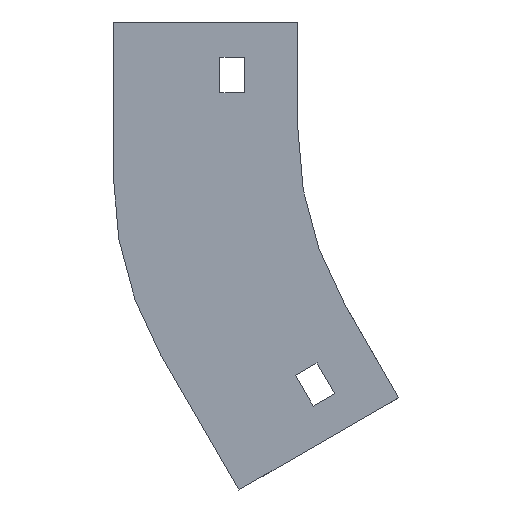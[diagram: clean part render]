
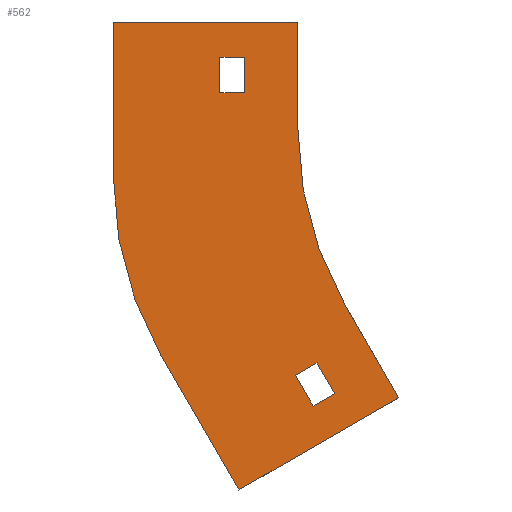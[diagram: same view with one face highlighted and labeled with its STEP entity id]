
A CAD part, left-side view. The second image highlights one B-rep face of the part: STEP entity #562.
In plain terms, the highlighted planar face has unit normal (-1, 0, 0).
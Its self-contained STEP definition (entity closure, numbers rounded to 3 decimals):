
#4 = VECTOR ( 'NONE', #836, 1000. ) ;
#5 = VECTOR ( 'NONE', #879, 1000. ) ;
#12 = EDGE_CURVE ( 'NONE', #265, #449, #974, .T. ) ;
#26 = CARTESIAN_POINT ( 'NONE',  ( -252., 52., 0. ) ) ;
#28 = CARTESIAN_POINT ( 'NONE',  ( -252., -4.345, -108.321 ) ) ;
#38 = FACE_OUTER_BOUND ( 'NONE', #1201, .T. ) ;
#44 = EDGE_CURVE ( 'NONE', #52, #822, #1235, .T. ) ;
#52 = VERTEX_POINT ( 'NONE', #594 ) ;
#53 = DIRECTION ( 'NONE',  ( 0., 0., -1. ) ) ;
#91 = LINE ( 'NONE', #1064, #414 ) ;
#108 = VECTOR ( 'NONE', #1223, 1000. ) ;
#114 = CARTESIAN_POINT ( 'NONE',  ( -252., -10.407, -104.821 ) ) ;
#123 = VERTEX_POINT ( 'NONE', #352 ) ;
#128 = VERTEX_POINT ( 'NONE', #915 ) ;
#138 = EDGE_CURVE ( 'NONE', #123, #265, #399, .T. ) ;
#149 = DIRECTION ( 'NONE',  ( 1., 0., 0. ) ) ;
#154 = CARTESIAN_POINT ( 'NONE',  ( -252., 15., -10. ) ) ;
#160 = VERTEX_POINT ( 'NONE', #1157 ) ;
#171 = FACE_BOUND ( 'NONE', #1334, .T. ) ;
#172 = CARTESIAN_POINT ( 'NONE',  ( -252., 22., -10. ) ) ;
#186 = VERTEX_POINT ( 'NONE', #920 ) ;
#187 = EDGE_CURVE ( 'NONE', #449, #354, #1225, .T. ) ;
#190 = LINE ( 'NONE', #207, #349 ) ;
#204 = ORIENTED_EDGE ( 'NONE', *, *, #44, .T. ) ;
#207 = CARTESIAN_POINT ( 'NONE',  ( -252., 22., -10. ) ) ;
#213 = DIRECTION ( 'NONE',  ( 0., -0.5, -0.866 ) ) ;
#215 = LINE ( 'NONE', #975, #1149 ) ;
#222 = ORIENTED_EDGE ( 'NONE', *, *, #652, .F. ) ;
#225 = EDGE_CURVE ( 'NONE', #128, #186, #418, .T. ) ;
#233 = CARTESIAN_POINT ( 'NONE',  ( -252., 0., 0. ) ) ;
#248 = DIRECTION ( 'NONE',  ( -1., 0., 0. ) ) ;
#256 = LINE ( 'NONE', #364, #108 ) ;
#257 = CARTESIAN_POINT ( 'NONE',  ( -252., -4.345, -108.321 ) ) ;
#261 = LINE ( 'NONE', #26, #1392 ) ;
#265 = VERTEX_POINT ( 'NONE', #967 ) ;
#292 = EDGE_CURVE ( 'NONE', #932, #52, #638, .T. ) ;
#311 = DIRECTION ( 'NONE',  ( 0., 1., 0. ) ) ;
#327 = ORIENTED_EDGE ( 'NONE', *, *, #1088, .F. ) ;
#338 = CARTESIAN_POINT ( 'NONE',  ( -252., -13.397, -80. ) ) ;
#339 = VECTOR ( 'NONE', #1227, 1000. ) ;
#349 = VECTOR ( 'NONE', #950, 1000. ) ;
#352 = CARTESIAN_POINT ( 'NONE',  ( -252., -5.407, -96.16 ) ) ;
#354 = VERTEX_POINT ( 'NONE', #114 ) ;
#364 = CARTESIAN_POINT ( 'NONE',  ( -252., 52., -43.933 ) ) ;
#383 = EDGE_CURVE ( 'NONE', #588, #160, #461, .T. ) ;
#399 = LINE ( 'NONE', #825, #415 ) ;
#402 = CARTESIAN_POINT ( 'NONE',  ( -252., 22., -10. ) ) ;
#414 = VECTOR ( 'NONE', #311, 1000. ) ;
#415 = VECTOR ( 'NONE', #1151, 1000. ) ;
#418 = LINE ( 'NONE', #509, #979 ) ;
#449 = VERTEX_POINT ( 'NONE', #28 ) ;
#461 = CIRCLE ( 'NONE', #673, 100. ) ;
#462 = VERTEX_POINT ( 'NONE', #864 ) ;
#464 = CARTESIAN_POINT ( 'NONE',  ( -252., -100., -30. ) ) ;
#482 = EDGE_CURVE ( 'NONE', #462, #128, #1014, .T. ) ;
#493 = PLANE ( 'NONE',  #1338 ) ;
#509 = CARTESIAN_POINT ( 'NONE',  ( -252., 16.636, -131.981 ) ) ;
#510 = LINE ( 'NONE', #338, #959 ) ;
#520 = CARTESIAN_POINT ( 'NONE',  ( -252., 15., -20. ) ) ;
#525 = DIRECTION ( 'NONE',  ( 0., 0.5, 0.866 ) ) ;
#547 = EDGE_CURVE ( 'NONE', #186, #621, #1208, .T. ) ;
#560 = AXIS2_PLACEMENT_3D ( 'NONE', #597, #149, #53 ) ;
#562 = ADVANCED_FACE ( 'NONE', ( #171, #38, #604 ), #493, .T. ) ;
#564 = ORIENTED_EDGE ( 'NONE', *, *, #482, .F. ) ;
#579 = EDGE_CURVE ( 'NONE', #621, #1082, #256, .T. ) ;
#588 = VERTEX_POINT ( 'NONE', #800 ) ;
#594 = CARTESIAN_POINT ( 'NONE',  ( -252., 15., -10. ) ) ;
#597 = CARTESIAN_POINT ( 'NONE',  ( -252., -48., -43.933 ) ) ;
#604 = FACE_BOUND ( 'NONE', #933, .T. ) ;
#610 = VERTEX_POINT ( 'NONE', #856 ) ;
#612 = DIRECTION ( 'NONE',  ( -1., 0., 0. ) ) ;
#621 = VERTEX_POINT ( 'NONE', #839 ) ;
#638 = LINE ( 'NONE', #402, #4 ) ;
#652 = EDGE_CURVE ( 'NONE', #354, #123, #215, .T. ) ;
#664 = CARTESIAN_POINT ( 'NONE',  ( -252., -100., -30. ) ) ;
#673 = AXIS2_PLACEMENT_3D ( 'NONE', #664, #248, #1099 ) ;
#679 = CARTESIAN_POINT ( 'NONE',  ( -252., -4.345, -108.321 ) ) ;
#681 = ORIENTED_EDGE ( 'NONE', *, *, #187, .F. ) ;
#685 = DIRECTION ( 'NONE',  ( 0., -0.866, 0.5 ) ) ;
#757 = LINE ( 'NONE', #233, #1337 ) ;
#761 = ORIENTED_EDGE ( 'NONE', *, *, #1043, .T. ) ;
#773 = EDGE_CURVE ( 'NONE', #1082, #1352, #261, .T. ) ;
#780 = DIRECTION ( 'NONE',  ( 0., -1., 0. ) ) ;
#791 = DIRECTION ( 'NONE',  ( 0., 0., 1. ) ) ;
#797 = ORIENTED_EDGE ( 'NONE', *, *, #138, .F. ) ;
#800 = CARTESIAN_POINT ( 'NONE',  ( -252., 0., -30. ) ) ;
#812 = ORIENTED_EDGE ( 'NONE', *, *, #579, .F. ) ;
#822 = VERTEX_POINT ( 'NONE', #520 ) ;
#823 = CARTESIAN_POINT ( 'NONE',  ( -252., -28.397, -105.981 ) ) ;
#825 = CARTESIAN_POINT ( 'NONE',  ( -252., 0.655, -99.66 ) ) ;
#826 = ORIENTED_EDGE ( 'NONE', *, *, #292, .T. ) ;
#831 = ORIENTED_EDGE ( 'NONE', *, *, #547, .F. ) ;
#836 = DIRECTION ( 'NONE',  ( 0., -1., 0. ) ) ;
#839 = CARTESIAN_POINT ( 'NONE',  ( -252., 52., -43.933 ) ) ;
#853 = DIRECTION ( 'NONE',  ( 0., 0.5, 0.866 ) ) ;
#856 = CARTESIAN_POINT ( 'NONE',  ( -252., 22., -20. ) ) ;
#864 = CARTESIAN_POINT ( 'NONE',  ( -252., -28.397, -105.981 ) ) ;
#879 = DIRECTION ( 'NONE',  ( 0., -0.5, -0.866 ) ) ;
#908 = ORIENTED_EDGE ( 'NONE', *, *, #12, .F. ) ;
#915 = CARTESIAN_POINT ( 'NONE',  ( -252., 16.636, -131.981 ) ) ;
#920 = CARTESIAN_POINT ( 'NONE',  ( -252., 38.603, -93.933 ) ) ;
#932 = VERTEX_POINT ( 'NONE', #172 ) ;
#933 = EDGE_LOOP ( 'NONE', ( #222, #681, #908, #797 ) ) ;
#934 = VECTOR ( 'NONE', #685, 1000. ) ;
#936 = CARTESIAN_POINT ( 'NONE',  ( -252., 52., 0. ) ) ;
#950 = DIRECTION ( 'NONE',  ( 0., 0., 1. ) ) ;
#959 = VECTOR ( 'NONE', #213, 1000. ) ;
#964 = ORIENTED_EDGE ( 'NONE', *, *, #1178, .F. ) ;
#967 = CARTESIAN_POINT ( 'NONE',  ( -252., 0.655, -99.66 ) ) ;
#974 = LINE ( 'NONE', #679, #5 ) ;
#975 = CARTESIAN_POINT ( 'NONE',  ( -252., -10.407, -104.821 ) ) ;
#979 = VECTOR ( 'NONE', #853, 1000. ) ;
#987 = DIRECTION ( 'NONE',  ( 0., 0., -1. ) ) ;
#1007 = EDGE_CURVE ( 'NONE', #610, #932, #190, .T. ) ;
#1014 = LINE ( 'NONE', #823, #1250 ) ;
#1022 = DIRECTION ( 'NONE',  ( 0., 0.866, -0.5 ) ) ;
#1043 = EDGE_CURVE ( 'NONE', #822, #610, #91, .T. ) ;
#1046 = ORIENTED_EDGE ( 'NONE', *, *, #225, .F. ) ;
#1052 = ORIENTED_EDGE ( 'NONE', *, *, #383, .F. ) ;
#1064 = CARTESIAN_POINT ( 'NONE',  ( -252., 22., -20. ) ) ;
#1082 = VERTEX_POINT ( 'NONE', #936 ) ;
#1088 = EDGE_CURVE ( 'NONE', #160, #462, #510, .T. ) ;
#1099 = DIRECTION ( 'NONE',  ( 0., 0., 1. ) ) ;
#1138 = ORIENTED_EDGE ( 'NONE', *, *, #773, .F. ) ;
#1149 = VECTOR ( 'NONE', #525, 1000. ) ;
#1151 = DIRECTION ( 'NONE',  ( 0., 0.866, -0.5 ) ) ;
#1157 = CARTESIAN_POINT ( 'NONE',  ( -252., -13.397, -80. ) ) ;
#1178 = EDGE_CURVE ( 'NONE', #1352, #588, #757, .T. ) ;
#1201 = EDGE_LOOP ( 'NONE', ( #1138, #812, #831, #1046, #564, #327, #1052, #964 ) ) ;
#1208 = CIRCLE ( 'NONE', #560, 100. ) ;
#1223 = DIRECTION ( 'NONE',  ( 0., 0., 1. ) ) ;
#1225 = LINE ( 'NONE', #257, #934 ) ;
#1227 = DIRECTION ( 'NONE',  ( 0., 0., -1. ) ) ;
#1235 = LINE ( 'NONE', #154, #339 ) ;
#1250 = VECTOR ( 'NONE', #1022, 1000. ) ;
#1321 = CARTESIAN_POINT ( 'NONE',  ( -252., 0., 0. ) ) ;
#1334 = EDGE_LOOP ( 'NONE', ( #826, #204, #761, #1368 ) ) ;
#1337 = VECTOR ( 'NONE', #987, 1000. ) ;
#1338 = AXIS2_PLACEMENT_3D ( 'NONE', #464, #612, #791 ) ;
#1352 = VERTEX_POINT ( 'NONE', #1321 ) ;
#1368 = ORIENTED_EDGE ( 'NONE', *, *, #1007, .T. ) ;
#1392 = VECTOR ( 'NONE', #780, 1000. ) ;
